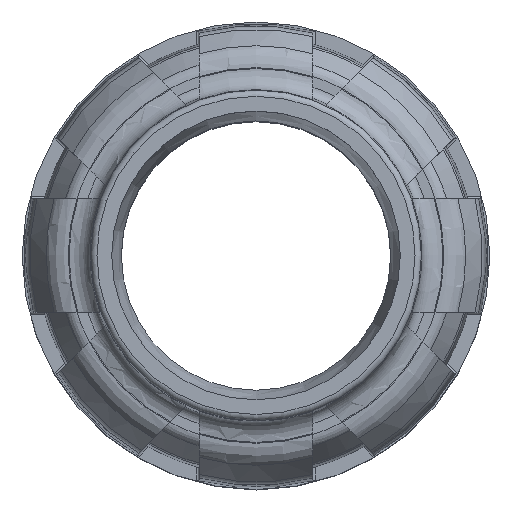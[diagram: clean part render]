
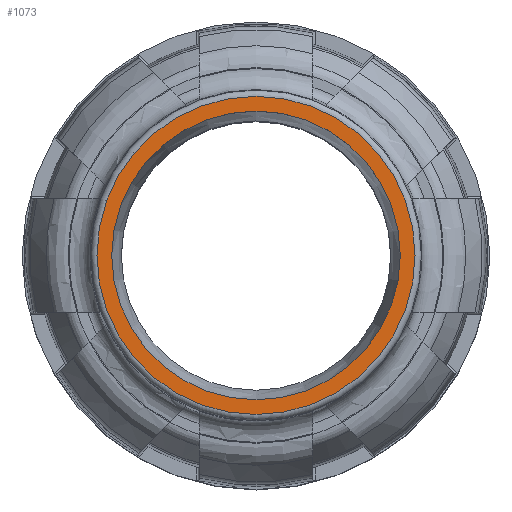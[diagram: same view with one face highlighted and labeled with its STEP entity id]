
A CAD part, top view. The second image highlights one B-rep face of the part: STEP entity #1073.
In plain terms, the highlighted planar face has unit normal (0, 0, 1).
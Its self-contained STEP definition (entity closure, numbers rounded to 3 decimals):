
#1073 = ADVANCED_FACE( '', ( #2477, #2478 ), #2479, .T. );
#2477 = FACE_OUTER_BOUND( '', #4230, .T. );
#2478 = FACE_BOUND( '', #4231, .T. );
#2479 = PLANE( '', #4232 );
#4230 = EDGE_LOOP( '', ( #7373 ) );
#4231 = EDGE_LOOP( '', ( #7374 ) );
#4232 = AXIS2_PLACEMENT_3D( '', #7375, #7376, #7377 );
#7373 = ORIENTED_EDGE( '', *, *, #11436, .F. );
#7374 = ORIENTED_EDGE( '', *, *, #11591, .T. );
#7375 = CARTESIAN_POINT( '', ( 0., 0., 24.298 ) );
#7376 = DIRECTION( '', ( 0., 0., 1. ) );
#7377 = DIRECTION( '', ( -1., 0., 0. ) );
#11436 = EDGE_CURVE( '', #14203, #14203, #14204, .T. );
#11591 = EDGE_CURVE( '', #14436, #14436, #14437, .T. );
#14203 = VERTEX_POINT( '', #20040 );
#14204 = CIRCLE( '', #20041, 37.727 );
#14436 = VERTEX_POINT( '', #20591 );
#14437 = CIRCLE( '', #20592, 34.224 );
#20040 = CARTESIAN_POINT( '', ( 0., -37.727, 24.298 ) );
#20041 = AXIS2_PLACEMENT_3D( '', #23874, #23875, #23876 );
#20591 = CARTESIAN_POINT( '', ( 0., -34.224, 24.298 ) );
#20592 = AXIS2_PLACEMENT_3D( '', #24072, #24073, #24074 );
#23874 = CARTESIAN_POINT( '', ( 0., 0., 24.298 ) );
#23875 = DIRECTION( '', ( 0., 0., -1. ) );
#23876 = DIRECTION( '', ( 0., -1., 0. ) );
#24072 = CARTESIAN_POINT( '', ( 0., 0., 24.298 ) );
#24073 = DIRECTION( '', ( 0., 0., -1. ) );
#24074 = DIRECTION( '', ( 0., -1., 0. ) );
